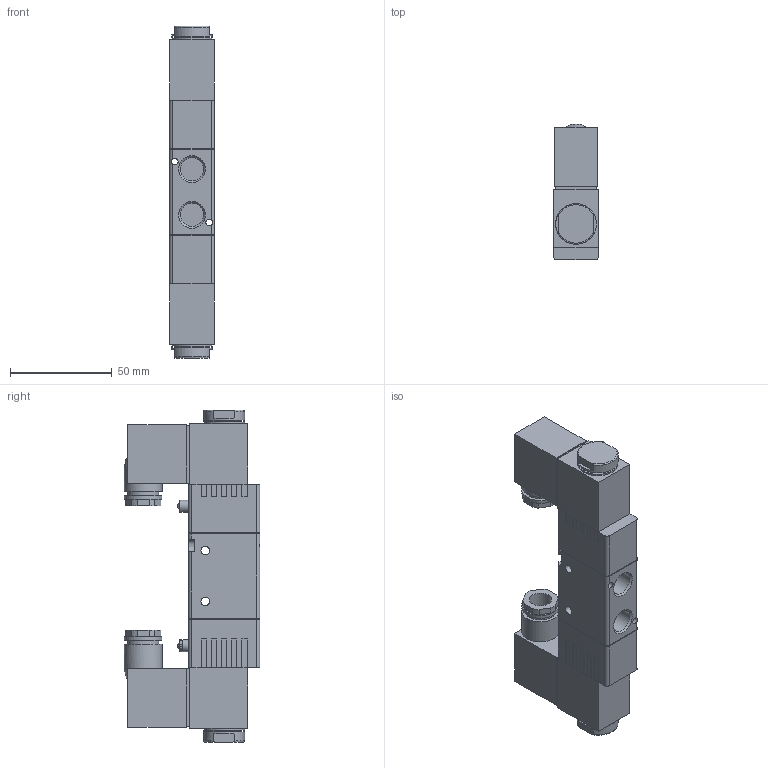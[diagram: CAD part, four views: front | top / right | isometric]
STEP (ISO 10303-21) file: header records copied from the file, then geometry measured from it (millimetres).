
FILE_DESCRIPTION(/* description */ ('STEP AP214'),/* implementation_level */ '2;1');
FILE_NAME(/* name */ '86-MV-3-14-320-Mxx.stp',/* time_stamp */ '2025-10-08T08:32:18+02:00',/* author */ ('Tschernatsch'),/* organization */ ('CADENAS'),/* preprocessor_version */ 'ST-DEVELOPER v20',/* originating_system */ 'Autodesk Inventor 2024',/* authorisation */ ' ');
FILE_SCHEMA (('AUTOMOTIVE_DESIGN { 1 0 10303 214 3 1 1 }'));
Length unit declared in the file: millimetre
Products named in the file (1): J3V220-08-DC24V
Bounding box: 22 x 66.7 x 163.4 mm (x, y, z)
Volume: 147407.8 mm3; surface area: 30699.5 mm2
Topology: 1 solids, 1 shells, 348 faces, 874 edges, 545 vertices
Faces by surface type: plane 260, cylinder 59, cone 25, torus 4
Full cylindrical faces by diameter (mm): 3.3 x2, 4.3 x2, 6 x2, 10.8 x2, 11.445 x3, 15.2 x4, 18.4 x2, 18.6 x2, 20 x4
Entity records: 10800 total; most frequent: CARTESIAN_POINT 1966, ORIENTED_EDGE 1748, DIRECTION 1719, EDGE_CURVE 874, LINE 691, VECTOR 691, VERTEX_POINT 545, AXIS2_PLACEMENT_3D 514
